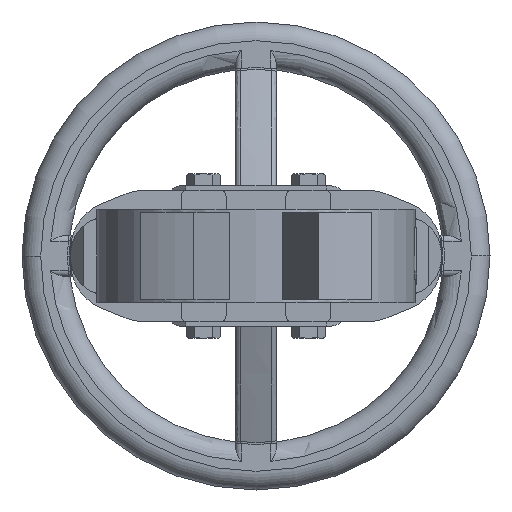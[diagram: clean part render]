
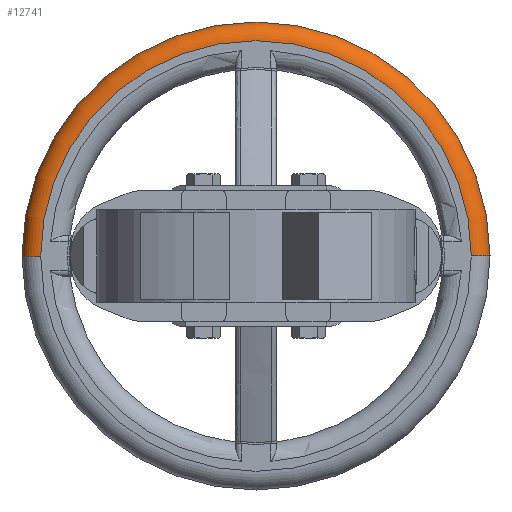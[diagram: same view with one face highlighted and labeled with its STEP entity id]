
A CAD part, front view. The second image highlights one B-rep face of the part: STEP entity #12741.
In plain terms, the highlighted toroidal (fillet/blend) face has major radius 115 mm and minor radius 10 mm.
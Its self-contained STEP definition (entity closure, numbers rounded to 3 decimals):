
#12664 = VERTEX_POINT ( 'NONE', #25531 ) ;
#12665 = VERTEX_POINT ( 'NONE', #25530 ) ;
#12666 = EDGE_CURVE ( 'NONE', #12665, #12664, #25518, .T. ) ;
#12667 = EDGE_LOOP ( 'NONE', ( #12676, #12746, #12747, #12672 ) ) ;
#12672 = ORIENTED_EDGE ( 'NONE', *, *, #12673, .F. ) ;
#12673 = EDGE_CURVE ( 'NONE', #12665, #12678, #25562, .T. ) ;
#12676 = ORIENTED_EDGE ( 'NONE', *, *, #12666, .T. ) ;
#12678 = VERTEX_POINT ( 'NONE', #25550 ) ;
#12739 = EDGE_CURVE ( 'NONE', #12664, #12740, #25690, .T. ) ;
#12740 = VERTEX_POINT ( 'NONE', #25685 ) ;
#12741 = ADVANCED_FACE ( 'NONE', ( #25684 ), #25683, .T. ) ;
#12746 = ORIENTED_EDGE ( 'NONE', *, *, #12739, .T. ) ;
#12747 = ORIENTED_EDGE ( 'NONE', *, *, #12748, .F. ) ;
#12748 = EDGE_CURVE ( 'NONE', #12678, #12740, #25728, .T. ) ;
#25513 = DIRECTION ( 'NONE',  ( -1., 0., 0. ) ) ;
#25514 = DIRECTION ( 'NONE',  ( 0., 1., 0. ) ) ;
#25516 = CARTESIAN_POINT ( 'NONE',  ( 0., 409., 0. ) ) ;
#25517 = AXIS2_PLACEMENT_3D ( 'NONE', #25516, #25514, #25513 ) ;
#25518 = CIRCLE ( 'NONE', #25517, 115. ) ;
#25530 = CARTESIAN_POINT ( 'NONE',  ( -115., 409., 0. ) ) ;
#25531 = CARTESIAN_POINT ( 'NONE',  ( 115., 409., 0. ) ) ;
#25550 = CARTESIAN_POINT ( 'NONE',  ( -125., 419., 0. ) ) ;
#25558 = DIRECTION ( 'NONE',  ( -1., 0., 0. ) ) ;
#25559 = DIRECTION ( 'NONE',  ( 0., 0., -1. ) ) ;
#25560 = CARTESIAN_POINT ( 'NONE',  ( -115., 419., 0. ) ) ;
#25561 = AXIS2_PLACEMENT_3D ( 'NONE', #25560, #25559, #25558 ) ;
#25562 = CIRCLE ( 'NONE', #25561, 10. ) ;
#25678 = DIRECTION ( 'NONE',  ( -1., 0., 0. ) ) ;
#25679 = DIRECTION ( 'NONE',  ( 0., 1., 0. ) ) ;
#25680 = CARTESIAN_POINT ( 'NONE',  ( 0., 419., 0. ) ) ;
#25681 = AXIS2_PLACEMENT_3D ( 'NONE', #25680, #25679, #25678 ) ;
#25683 = TOROIDAL_SURFACE ( 'NONE', #25681, 115., 10. ) ;
#25684 = FACE_OUTER_BOUND ( 'NONE', #12667, .T. ) ;
#25685 = CARTESIAN_POINT ( 'NONE',  ( 125., 419., 0. ) ) ;
#25686 = DIRECTION ( 'NONE',  ( 1., 0., 0. ) ) ;
#25687 = DIRECTION ( 'NONE',  ( 0., 0., 1. ) ) ;
#25688 = CARTESIAN_POINT ( 'NONE',  ( 115., 419., 0. ) ) ;
#25689 = AXIS2_PLACEMENT_3D ( 'NONE', #25688, #25687, #25686 ) ;
#25690 = CIRCLE ( 'NONE', #25689, 10. ) ;
#25721 = DIRECTION ( 'NONE',  ( -1., 0., 0. ) ) ;
#25722 = DIRECTION ( 'NONE',  ( 0., 1., 0. ) ) ;
#25723 = CARTESIAN_POINT ( 'NONE',  ( 0., 419., 0. ) ) ;
#25724 = AXIS2_PLACEMENT_3D ( 'NONE', #25723, #25722, #25721 ) ;
#25728 = CIRCLE ( 'NONE', #25724, 125. ) ;
